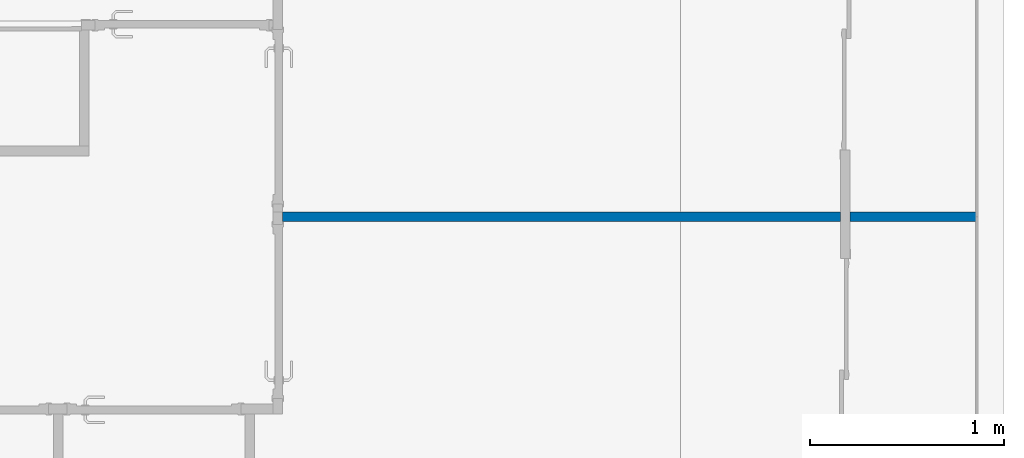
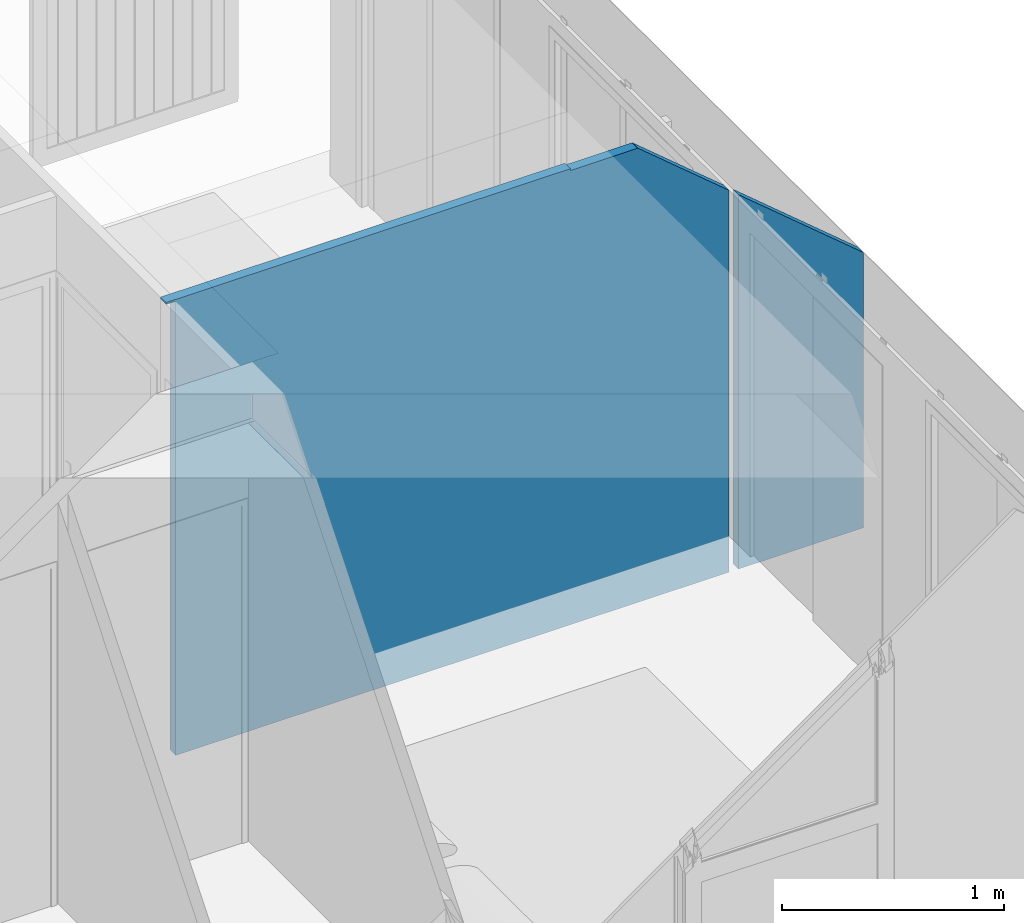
# One storey, part 7 of 11: 1 wall.
"""IFC2X3 building model written with IfcOpenShell, lengths in metres."""

import ifcopenshell
import ifcopenshell.guid

model = None  # the IFC model being written
_history = None  # IfcOwnerHistory: only IFC2X3 demands one
_inside = {}  # id of a spatial element -> (the spatial element, [elements in it])
_under = {}  # id of a project, library or spatial element -> (it, [spatial elements below it])
_declared = {}  # id of a project -> (the project, [libraries it declares])
_typed = {}  # id of a type object -> (the type object, [elements of that type])
_made_of = {}  # id of a material, layer set ... -> (it, [elements and type objects made of it])


def new_model(schema):
    """Start an empty IFC model of exactly this schema.

    Asked for "IFC4X3", IfcOpenShell would pick the latest addendum, in which some entities
    have other attributes; the version numbers below select the first issue.
    IFC2X3 requires an IfcOwnerHistory on every rooted entity: one is made here for all.
    """
    global model, _history
    if schema == "IFC4X3":
        model = ifcopenshell.file(schema_version=(4, 3, 0, 0))
    else:
        model = ifcopenshell.file(schema=schema)
    _inside.clear()
    _under.clear()
    _declared.clear()
    _typed.clear()
    _made_of.clear()
    _history = None
    if model.schema == "IFC2X3":
        org = make("IfcOrganization", Name="unknown")
        user = make(
            "IfcPersonAndOrganization",
            ThePerson=make("IfcPerson", FamilyName="unknown"),
            TheOrganization=org,
        )
        app = make(
            "IfcApplication",
            ApplicationDeveloper=org,
            Version="unknown",
            ApplicationFullName="unknown",
            ApplicationIdentifier="unknown",
        )
        _history = make(
            "IfcOwnerHistory",
            OwningUser=user,
            OwningApplication=app,
            ChangeAction="ADDED",
            CreationDate=0,
        )
    return model


def make(cls, **values):
    """One entity of the class cls with the attributes given. An attribute that is None is left unset."""
    return model.create_entity(
        cls, **{name: value for name, value in values.items() if value is not None}
    )


def entity(cls, *values):
    """Any entity or typed value of the class cls, its attributes in the order of the schema. None: left unset."""
    e = model.create_entity(cls)
    for i, value in enumerate(values):
        if value is not None:
            e[i] = value
    return e


def rooted(cls, **values):
    """An entity with a GlobalId (a new one), such as an element, a storey or a relation."""
    return make(cls, GlobalId=ifcopenshell.guid.new(), OwnerHistory=_history, **values)


def si_unit(unit_type, name, prefix=None):
    """IfcSIUnit, for example si_unit("LENGTHUNIT", "METRE", prefix="MILLI")."""
    return make("IfcSIUnit", UnitType=unit_type, Prefix=prefix, Name=name)


def converted_unit(unit_type, name, factor, base, dimensions=None, offset=None):
    """IfcConversionBasedUnit, such as the inch: factor (a typed value) times the base unit."""
    return make(
        "IfcConversionBasedUnit"
        if offset is None
        else "IfcConversionBasedUnitWithOffset",
        ConversionOffset=offset,
        Dimensions=None
        if dimensions is None
        else entity("IfcDimensionalExponents", *dimensions),
        UnitType=unit_type,
        Name=name,
        ConversionFactor=make(
            "IfcMeasureWithUnit", ValueComponent=factor, UnitComponent=base
        ),
    )


def derived_unit(unit_type, elements):
    """IfcDerivedUnit: a product of units, each with its exponent."""
    return make(
        "IfcDerivedUnit",
        Elements=[
            make("IfcDerivedUnitElement", Unit=unit, Exponent=power)
            for unit, power in elements
        ],
        UnitType=unit_type,
    )


def assignment(units):
    """IfcUnitAssignment: the units of a project."""
    return None if units is None else make("IfcUnitAssignment", Units=units)


def point(xyz):
    """IfcCartesianPoint."""
    return None if xyz is None else make("IfcCartesianPoint", Coordinates=xyz)


def direction(xyz):
    """IfcDirection."""
    return None if xyz is None else make("IfcDirection", DirectionRatios=xyz)


def frame(location, z_axis=None, x_axis=None):
    """IfcAxis2Placement3D, a coordinate frame: its origin and axes. An axis left out is left unset."""
    return make(
        "IfcAxis2Placement3D",
        Location=point(location),
        Axis=direction(z_axis),
        RefDirection=direction(x_axis),
    )


def origin():
    """The frame at (0, 0, 0) with its axes left unset."""
    return frame((0.0, 0.0, 0.0))


def place(relative_to, where):
    """IfcLocalPlacement: puts the frame where relative to a parent placement (None: the world)."""
    return make(
        "IfcLocalPlacement", PlacementRelTo=relative_to, RelativePlacement=where
    )


def context(
    kind, dimensions, precision=None, world=None, true_north=None, identifier=None
):
    """IfcGeometricRepresentationContext, for example the 3D "Model" context."""
    return make(
        "IfcGeometricRepresentationContext",
        ContextIdentifier=identifier,
        ContextType=kind,
        CoordinateSpaceDimension=dimensions,
        Precision=precision,
        WorldCoordinateSystem=world,
        TrueNorth=true_north,
    )


def subcontext(parent, identifier, kind, view, scale=None):
    """IfcGeometricRepresentationSubContext, for example "Body" below "Model"."""
    return make(
        "IfcGeometricRepresentationSubContext",
        ContextIdentifier=identifier,
        ContextType=kind,
        ParentContext=parent,
        TargetScale=scale,
        TargetView=view,
    )


def project(units=None, contexts=None):
    """IfcProject with its units and contexts."""
    return rooted(
        "IfcProject",
        Name="project",
        RepresentationContexts=contexts,
        UnitsInContext=assignment(units),
    )


def spatial(cls, under=None, at=None, **own):
    """A site, building, storey or space (cls), placed at a placement, below another one or the project."""
    s = rooted(cls, ObjectPlacement=at, **own)
    if under is not None:
        _under.setdefault(under.id(), (under, []))[1].append(s)
    return s


def faces_of(points, faces, orient=None, outer=None):
    """IfcFace entities. A face is a list of loops; a loop is a list of indices into points, from 0.

    orient and outer hold one flag for each loop. By default every Orientation is true, the
    first loop of a face is its IfcFaceOuterBound and the others are IfcFaceBound.
    """
    made = []
    for i, loops in enumerate(faces):
        bounds = []
        for j, loop in enumerate(loops):
            is_outer = j == 0 if outer is None else outer[i][j]
            bounds.append(
                make(
                    "IfcFaceOuterBound" if is_outer else "IfcFaceBound",
                    Bound=make("IfcPolyLoop", Polygon=[points[k] for k in loop]),
                    Orientation=True if orient is None else orient[i][j],
                )
            )
        made.append(make("IfcFace", Bounds=bounds))
    return made


def faceted_brep(points, faces, orient=None, outer=None, voids=None):
    """IfcFacetedBrep: a solid bounded by flat faces; with voids (closed shells), ...WithVoids."""
    shared = [point(p) for p in points]
    hull = make("IfcClosedShell", CfsFaces=faces_of(shared, faces, orient, outer))
    if voids is None:
        return make("IfcFacetedBrep", Outer=hull)
    return make(
        "IfcFacetedBrepWithVoids",
        Outer=hull,
        Voids=[
            make(cls, CfsFaces=faces_of(shared, fs, o, b)) for cls, fs, o, b in voids
        ],
    )


def shape(context_of_items, identifier, shape_type, items):
    """IfcShapeRepresentation: the items that make up one representation, for example the "Body"."""
    return make(
        "IfcShapeRepresentation",
        ContextOfItems=context_of_items,
        RepresentationIdentifier=identifier,
        RepresentationType=shape_type,
        Items=items,
    )


def material(Name=None, Category=None):
    """IfcMaterial."""
    return make("IfcMaterial", Name=Name, Category=Category)


def layer(
    of_material, thickness, ventilated=None, Name=None, Category=None, Priority=None
):
    """IfcMaterialLayer: one layer of a wall or slab, of a material (None: an air gap)."""
    return make(
        "IfcMaterialLayer",
        Material=of_material,
        LayerThickness=thickness,
        IsVentilated=ventilated,
        Name=Name,
        Category=Category,
        Priority=Priority,
    )


def layer_set(layers, Name=None):
    """IfcMaterialLayerSet."""
    return make("IfcMaterialLayerSet", MaterialLayers=layers, LayerSetName=Name)


def made_of(thing, what):
    """Note that an element or type object is made of a material, layer set ...; save() writes the relation."""
    if what is not None:
        _made_of.setdefault(what.id(), (what, []))[1].append(thing)
    return thing


def type_object(cls, material=None, **own):
    """A type object (cls), such as IfcWallType, which elements share."""
    return made_of(rooted(cls, **own), material)


def element(
    cls,
    number,
    at=None,
    inside=None,
    cuts=None,
    type_object=None,
    material=None,
    context=None,
    identifier="Body",
    shape_type=None,
    held_by="IfcProductDefinitionShape",
    body=None,
    shapes=None,
    **own,
):
    """One element of the class cls, such as IfcWall. Its Tag is "e" and its number.

    at: its placement. inside: the storey or other place that contains it. cuts: it is an
    opening in that element (IfcRelVoidsElement). A single representation is given by context,
    identifier, shape_type and body (its items); several are given by shapes. held_by: the class
    of the entity that holds the representations. save() writes the other relations.
    """
    e = rooted(cls, Tag="e%d" % number, ObjectPlacement=at, **own)
    if body is not None:
        shapes = [shape(context, identifier, shape_type, body)]
    if shapes is not None:
        e.Representation = make(held_by, Representations=shapes)
    if inside is not None:
        _inside.setdefault(inside.id(), (inside, []))[1].append(e)
    if cuts is not None:
        rooted(
            "IfcRelVoidsElement", RelatingBuildingElement=cuts, RelatedOpeningElement=e
        )
    if type_object is not None:
        _typed.setdefault(type_object.id(), (type_object, []))[1].append(e)
    return made_of(e, material)


def aggregate(whole, parts):
    """IfcRelAggregates: a whole, such as a stair, and the parts it consists of."""
    return rooted("IfcRelAggregates", RelatingObject=whole, RelatedObjects=parts)


def save(model, path):
    """Write the relations noted so far, then the file.

    IfcRelAggregates (storeys below a building ...), IfcRelContainedInSpatialStructure (elements
    in a storey), IfcRelDefinesByType, IfcRelAssociatesMaterial and IfcRelDeclares: one each for
    every whole, place, type object, material and project.
    """
    for whole, parts in _under.values():
        aggregate(whole, parts)
    for where, things in _inside.values():
        rooted(
            "IfcRelContainedInSpatialStructure",
            RelatedElements=things,
            RelatingStructure=where,
        )
    for kind, things in _typed.values():
        rooted("IfcRelDefinesByType", RelatedObjects=things, RelatingType=kind)
    for what, things in _made_of.values():
        rooted("IfcRelAssociatesMaterial", RelatedObjects=things, RelatingMaterial=what)
    for by, libraries in _declared.values():
        rooted("IfcRelDeclares", RelatingContext=by, RelatedDefinitions=libraries)
    model.write(path)


model = new_model("IFC2X3")

# Units and contexts
model_context = context("Model", 3, precision=1e-05, world=origin(), true_north=direction((6.12303176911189e-17, 1.0)))
body_context = subcontext(model_context, "Body", "Model", "MODEL_VIEW")
ifc_project = project(units=[si_unit("LENGTHUNIT", "METRE"), si_unit("AREAUNIT", "SQUARE_METRE"), si_unit("VOLUMEUNIT", "CUBIC_METRE"), converted_unit("PLANEANGLEUNIT", "DEGREE", entity("IfcRatioMeasure", 0.0174532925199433), si_unit("PLANEANGLEUNIT", "RADIAN"), dimensions=[0, 0, 0, 0, 0, 0, 0]), si_unit("MASSUNIT", "GRAM", prefix="KILO"), derived_unit("MASSDENSITYUNIT", [(si_unit("MASSUNIT", "GRAM", prefix="KILO"), 1), (si_unit("LENGTHUNIT", "METRE"), -3)]), derived_unit("MOMENTOFINERTIAUNIT", [(si_unit("LENGTHUNIT", "METRE"), 4)]), si_unit("TIMEUNIT", "SECOND"), si_unit("FREQUENCYUNIT", "HERTZ"), si_unit("THERMODYNAMICTEMPERATUREUNIT", "DEGREE_CELSIUS"), derived_unit("THERMALTRANSMITTANCEUNIT", [(si_unit("MASSUNIT", "GRAM", prefix="KILO"), 1), (si_unit("THERMODYNAMICTEMPERATUREUNIT", "KELVIN"), -1), (si_unit("TIMEUNIT", "SECOND"), -3)]), derived_unit("VOLUMETRICFLOWRATEUNIT", [(si_unit("LENGTHUNIT", "METRE"), 3), (si_unit("TIMEUNIT", "SECOND"), -1)]), si_unit("ELECTRICCURRENTUNIT", "AMPERE"), si_unit("ELECTRICVOLTAGEUNIT", "VOLT"), si_unit("POWERUNIT", "WATT"), si_unit("FORCEUNIT", "NEWTON", prefix="KILO"), si_unit("ILLUMINANCEUNIT", "LUX"), si_unit("LUMINOUSFLUXUNIT", "LUMEN"), si_unit("LUMINOUSINTENSITYUNIT", "CANDELA"), derived_unit("USERDEFINED", [(si_unit("MASSUNIT", "GRAM", prefix="KILO"), -1), (si_unit("LENGTHUNIT", "METRE"), -2), (si_unit("TIMEUNIT", "SECOND"), 3), (si_unit("LUMINOUSFLUXUNIT", "LUMEN"), 1)]), derived_unit("LINEARVELOCITYUNIT", [(si_unit("LENGTHUNIT", "METRE"), 1), (si_unit("TIMEUNIT", "SECOND"), -1)]), si_unit("PRESSUREUNIT", "PASCAL"), derived_unit("USERDEFINED", [(si_unit("LENGTHUNIT", "METRE"), -2), (si_unit("MASSUNIT", "GRAM", prefix="KILO"), 1), (si_unit("TIMEUNIT", "SECOND"), -2)]), derived_unit("LINEARFORCEUNIT", [(si_unit("MASSUNIT", "GRAM", prefix="KILO"), 1), (si_unit("LENGTHUNIT", "METRE"), 1), (si_unit("TIMEUNIT", "SECOND"), -2), (si_unit("LENGTHUNIT", "METRE"), -1)]), derived_unit("PLANARFORCEUNIT", [(si_unit("MASSUNIT", "GRAM", prefix="KILO"), 1), (si_unit("LENGTHUNIT", "METRE"), 1), (si_unit("TIMEUNIT", "SECOND"), -2), (si_unit("LENGTHUNIT", "METRE"), -2)])], contexts=[model_context])

# Site, building, storey
site_placement = place(None, origin())
site = spatial("IfcSite", under=ifc_project, at=site_placement, Name="Surface", CompositionType="ELEMENT")
building_placement = place(site_placement, origin())
building = spatial("IfcBuilding", under=site, at=building_placement, CompositionType="ELEMENT")
storey_placement = place(building_placement, frame((0.0, 0.0, 2.72)))
storey = spatial("IfcBuildingStorey", under=building, at=storey_placement, Name="02 ETG", CompositionType="ELEMENT", Elevation=2.72)

# Wall
ifc_material = material(Name="Mur par défaut")
ifc_layer = layer(ifc_material, 0.05)
ifc_layer_set = layer_set([ifc_layer], Name="Mur de base:cloison séche - B.A10")
wall_type = type_object("IfcWallType", Name="Mur de base:cloison séche - B.A10", PredefinedType="STANDARD", material=ifc_layer_set)
wall_placement = place(storey_placement, frame((9.78656158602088, -0.130960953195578, 0.0)))
element("IfcWall", 1, at=wall_placement, inside=storey, type_object=wall_type, Name="Mur de base:cloison séche - B.A10", ObjectType="Mur de base:cloison séche - B.A10", context=body_context, shape_type="Brep", body=[
    faceted_brep([(2.105, -0.025, 2.51), (0.0, -0.025, 2.51), (0.0, -0.025, 2.5), (0.0500000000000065, -0.025, 2.5), (0.0500000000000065, -0.025, 0.0), (2.93, -0.025, 0.0), (2.93, -0.025, 2.10231763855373), (2.455, -0.025, 2.50088996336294), (2.455, -0.025, 2.5), (2.105, -0.025, 2.5), (2.105, 0.025, 2.5), (2.105, 0.025, 2.51), (2.455, 0.025, 2.5), (2.455, 0.025, 2.50088996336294), (0.0500000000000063, 0.025, 0.0), (2.93, 0.025, 0.0), (0.0499999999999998, 0.025, 2.51), (0.0, 0.025, 2.51), (2.93, 0.025, 2.10231763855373), (0.0, 0.025, 2.5), (0.0500000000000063, 0.025, 2.5)], [[[0, 1, 2, 3, 4, 5, 6, 7, 8, 9]], [[9, 10, 11, 0]], [[10, 9, 8, 12]], [[12, 8, 7, 13]], [[4, 14, 15, 5]], [[1, 0, 11, 16, 17]], [[13, 7, 6, 18]], [[19, 20, 3, 2]], [[14, 4, 3, 20]], [[1, 17, 19, 2]], [[6, 5, 15, 18]], [[17, 16, 11, 10, 12, 13, 18, 15, 14, 20, 19]]]),
    faceted_brep([(3.63, 0.025, 1.51494789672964), (3.63, 0.025, 0.0), (2.98, 0.025, 0.0), (2.98000000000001, 0.025, 2.06036265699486), (3.63, -0.025, 1.51494789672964), (3.63, -0.025, 0.0), (3.63, 0.0, 0.0), (3.63, 0.0, 1.51494789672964), (2.98, -0.025, 0.0), (2.98, -0.025, 2.06036265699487)], [[[0, 1, 2, 3]], [[4, 5, 6, 1, 0, 7]], [[8, 9, 3, 2]], [[4, 7, 0, 3, 9]], [[1, 6, 5, 8, 2]], [[5, 4, 9, 8]]]),
])

save(model, "model.ifc")
